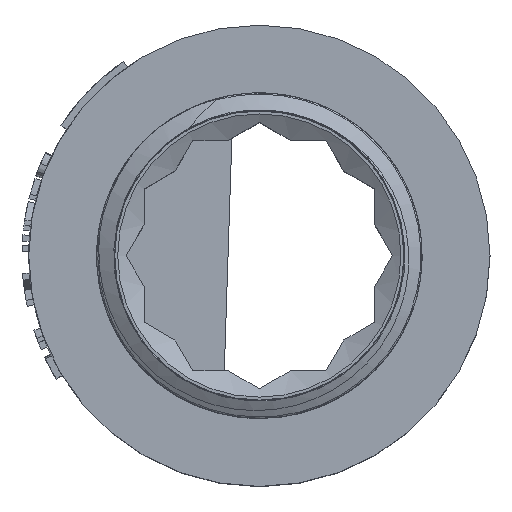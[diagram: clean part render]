
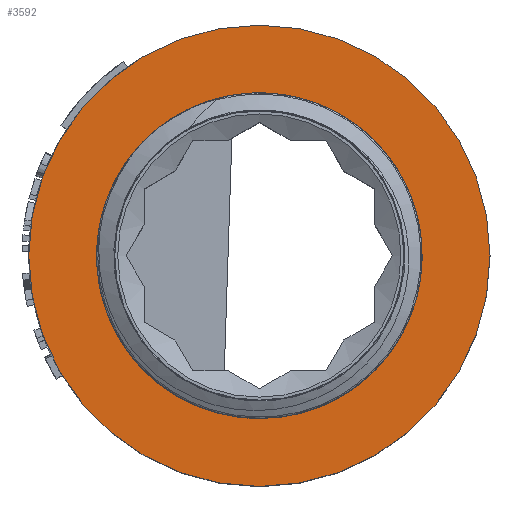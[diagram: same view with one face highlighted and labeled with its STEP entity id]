
A CAD part, top view. The second image highlights one B-rep face of the part: STEP entity #3592.
In plain terms, the highlighted planar face has unit normal (0, 0, 1).
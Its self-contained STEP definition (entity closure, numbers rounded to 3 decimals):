
#81=FACE_BOUND('',#810,.T.);
#431=PLANE('',#3848);
#596=FACE_OUTER_BOUND('',#809,.T.);
#809=EDGE_LOOP('',(#3134,#3135));
#810=EDGE_LOOP('',(#3136,#3137));
#1290=CIRCLE('',#3657,10.72);
#1293=CIRCLE('',#3660,10.72);
#1314=CIRCLE('',#3700,17.1);
#1315=CIRCLE('',#3701,17.1);
#1396=VERTEX_POINT('',#4596);
#1397=VERTEX_POINT('',#4597);
#1444=VERTEX_POINT('',#4844);
#1445=VERTEX_POINT('',#4845);
#1762=EDGE_CURVE('',#1396,#1397,#1290,.T.);
#1766=EDGE_CURVE('',#1397,#1396,#1293,.T.);
#1833=EDGE_CURVE('',#1444,#1445,#1314,.T.);
#1834=EDGE_CURVE('',#1445,#1444,#1315,.T.);
#3134=ORIENTED_EDGE('',*,*,#1833,.T.);
#3135=ORIENTED_EDGE('',*,*,#1834,.T.);
#3136=ORIENTED_EDGE('',*,*,#1762,.F.);
#3137=ORIENTED_EDGE('',*,*,#1766,.F.);
#3592=ADVANCED_FACE('',(#596,#81),#431,.T.);
#3657=AXIS2_PLACEMENT_3D('',#4598,#3900,#3901);
#3660=AXIS2_PLACEMENT_3D('',#4604,#3907,#3908);
#3700=AXIS2_PLACEMENT_3D('',#4846,#4023,#4024);
#3701=AXIS2_PLACEMENT_3D('',#4847,#4025,#4026);
#3848=AXIS2_PLACEMENT_3D('',#7116,#4479,#4480);
#3900=DIRECTION('center_axis',(0.,0.,1.));
#3901=DIRECTION('ref_axis',(1.,0.,0.));
#3907=DIRECTION('center_axis',(0.,0.,1.));
#3908=DIRECTION('ref_axis',(1.,0.,0.));
#4023=DIRECTION('center_axis',(0.,0.,1.));
#4024=DIRECTION('ref_axis',(1.,0.,0.));
#4025=DIRECTION('center_axis',(0.,0.,1.));
#4026=DIRECTION('ref_axis',(1.,0.,0.));
#4479=DIRECTION('center_axis',(0.,0.,1.));
#4480=DIRECTION('ref_axis',(1.,0.,0.));
#4596=CARTESIAN_POINT('',(0.,10.72,-12.));
#4597=CARTESIAN_POINT('',(0.,-10.72,-12.));
#4598=CARTESIAN_POINT('Origin',(0.,0.,-12.));
#4604=CARTESIAN_POINT('Origin',(0.,0.,-12.));
#4844=CARTESIAN_POINT('',(0.,-17.1,-12.));
#4845=CARTESIAN_POINT('',(0.,17.1,-12.));
#4846=CARTESIAN_POINT('Origin',(0.,0.,-12.));
#4847=CARTESIAN_POINT('Origin',(0.,0.,-12.));
#7116=CARTESIAN_POINT('Origin',(0.,-12.065,-12.));
